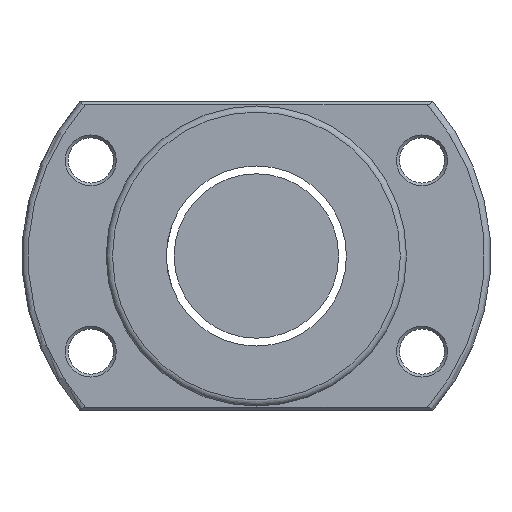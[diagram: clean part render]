
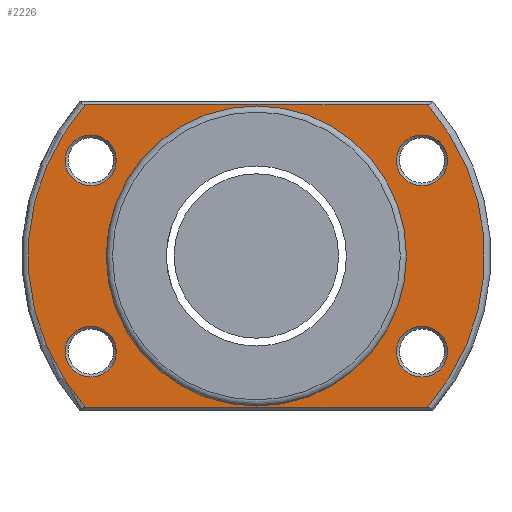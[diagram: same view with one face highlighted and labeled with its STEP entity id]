
A CAD part, left-side view. The second image highlights one B-rep face of the part: STEP entity #2226.
In plain terms, the highlighted planar face has unit normal (-1, 0, 0).
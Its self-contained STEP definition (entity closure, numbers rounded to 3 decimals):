
#28 = FACE_BOUND ( 'NONE', #143, .T. ) ;
#31 = DIRECTION ( 'NONE',  ( 0., 0., 1. ) ) ;
#74 = ORIENTED_EDGE ( 'NONE', *, *, #1837, .T. ) ;
#103 = VECTOR ( 'NONE', #199, 1000. ) ;
#116 = DIRECTION ( 'NONE',  ( 1., 0., 0. ) ) ;
#143 = EDGE_LOOP ( 'NONE', ( #2986 ) ) ;
#199 = DIRECTION ( 'NONE',  ( 0., 1., 0. ) ) ;
#351 = AXIS2_PLACEMENT_3D ( 'NONE', #560, #1461, #2437 ) ;
#463 = CARTESIAN_POINT ( 'NONE',  ( -79.5, 0., -36.5 ) ) ;
#492 = VECTOR ( 'NONE', #2944, 1000. ) ;
#502 = FACE_BOUND ( 'NONE', #1566, .T. ) ;
#512 = CIRCLE ( 'NONE', #1303, 55.5 ) ;
#525 = AXIS2_PLACEMENT_3D ( 'NONE', #1388, #2320, #2085 ) ;
#537 = CARTESIAN_POINT ( 'NONE',  ( -79.5, -40.27, -23.25 ) ) ;
#560 = CARTESIAN_POINT ( 'NONE',  ( -79.5, 40.27, 23.25 ) ) ;
#594 = CIRCLE ( 'NONE', #2159, 6.2 ) ;
#609 = ORIENTED_EDGE ( 'NONE', *, *, #841, .T. ) ;
#698 = VERTEX_POINT ( 'NONE', #1015 ) ;
#716 = DIRECTION ( 'NONE',  ( 1., 0., 0. ) ) ;
#735 = EDGE_CURVE ( 'NONE', #2325, #698, #512, .T. ) ;
#744 = FACE_OUTER_BOUND ( 'NONE', #1537, .T. ) ;
#777 = CARTESIAN_POINT ( 'NONE',  ( -79.5, 57., 0. ) ) ;
#779 = VERTEX_POINT ( 'NONE', #796 ) ;
#785 = DIRECTION ( 'NONE',  ( 1., 0., 0. ) ) ;
#796 = CARTESIAN_POINT ( 'NONE',  ( -79.5, -40.27, -17.05 ) ) ;
#833 = EDGE_LOOP ( 'NONE', ( #74 ) ) ;
#841 = EDGE_CURVE ( 'NONE', #2542, #2542, #2742, .T. ) ;
#934 = AXIS2_PLACEMENT_3D ( 'NONE', #777, #2339, #2612 ) ;
#981 = EDGE_CURVE ( 'NONE', #1451, #2325, #1379, .T. ) ;
#984 = CARTESIAN_POINT ( 'NONE',  ( -79.5, 0., 0. ) ) ;
#1015 = CARTESIAN_POINT ( 'NONE',  ( -79.5, 41.545, -36.8 ) ) ;
#1136 = EDGE_CURVE ( 'NONE', #2344, #2344, #1668, .T. ) ;
#1173 = VERTEX_POINT ( 'NONE', #3005 ) ;
#1184 = FACE_BOUND ( 'NONE', #2337, .T. ) ;
#1265 = CIRCLE ( 'NONE', #525, 55.5 ) ;
#1303 = AXIS2_PLACEMENT_3D ( 'NONE', #984, #1410, #1423 ) ;
#1305 = EDGE_CURVE ( 'NONE', #1173, #1173, #594, .T. ) ;
#1309 = VERTEX_POINT ( 'NONE', #2648 ) ;
#1372 = CARTESIAN_POINT ( 'NONE',  ( -79.5, 40.27, 29.45 ) ) ;
#1379 = LINE ( 'NONE', #2549, #103 ) ;
#1388 = CARTESIAN_POINT ( 'NONE',  ( -79.5, 0., 0. ) ) ;
#1393 = ORIENTED_EDGE ( 'NONE', *, *, #1305, .T. ) ;
#1410 = DIRECTION ( 'NONE',  ( -1., 0., 0. ) ) ;
#1423 = DIRECTION ( 'NONE',  ( 0., 0., 1. ) ) ;
#1451 = VERTEX_POINT ( 'NONE', #2603 ) ;
#1461 = DIRECTION ( 'NONE',  ( 1., 0., 0. ) ) ;
#1468 = PLANE ( 'NONE',  #934 ) ;
#1514 = EDGE_CURVE ( 'NONE', #1309, #1309, #2640, .T. ) ;
#1524 = AXIS2_PLACEMENT_3D ( 'NONE', #2388, #785, #2359 ) ;
#1537 = EDGE_LOOP ( 'NONE', ( #2380, #2680, #2510, #1973 ) ) ;
#1566 = EDGE_LOOP ( 'NONE', ( #609 ) ) ;
#1623 = AXIS2_PLACEMENT_3D ( 'NONE', #2135, #2355, #2632 ) ;
#1655 = FACE_BOUND ( 'NONE', #833, .T. ) ;
#1668 = CIRCLE ( 'NONE', #351, 6.2 ) ;
#1699 = EDGE_CURVE ( 'NONE', #698, #1834, #1992, .T. ) ;
#1789 = EDGE_LOOP ( 'NONE', ( #1393 ) ) ;
#1834 = VERTEX_POINT ( 'NONE', #2860 ) ;
#1837 = EDGE_CURVE ( 'NONE', #779, #779, #2589, .T. ) ;
#1973 = ORIENTED_EDGE ( 'NONE', *, *, #2435, .T. ) ;
#1992 = LINE ( 'NONE', #2718, #492 ) ;
#2085 = DIRECTION ( 'NONE',  ( 0., 0., 1. ) ) ;
#2135 = CARTESIAN_POINT ( 'NONE',  ( -79.5, 0., 0. ) ) ;
#2159 = AXIS2_PLACEMENT_3D ( 'NONE', #2185, #116, #2389 ) ;
#2185 = CARTESIAN_POINT ( 'NONE',  ( -79.5, 40.27, -23.25 ) ) ;
#2226 = ADVANCED_FACE ( 'NONE', ( #2840, #1655, #1184, #28, #502, #744 ), #1468, .T. ) ;
#2320 = DIRECTION ( 'NONE',  ( -1., 0., 0. ) ) ;
#2325 = VERTEX_POINT ( 'NONE', #2777 ) ;
#2337 = EDGE_LOOP ( 'NONE', ( #2593 ) ) ;
#2339 = DIRECTION ( 'NONE',  ( -1., 0., 0. ) ) ;
#2344 = VERTEX_POINT ( 'NONE', #1372 ) ;
#2355 = DIRECTION ( 'NONE',  ( 1., 0., 0. ) ) ;
#2359 = DIRECTION ( 'NONE',  ( 0., 0., 1. ) ) ;
#2380 = ORIENTED_EDGE ( 'NONE', *, *, #981, .T. ) ;
#2388 = CARTESIAN_POINT ( 'NONE',  ( -79.5, -40.27, 23.25 ) ) ;
#2389 = DIRECTION ( 'NONE',  ( 0., 0., 1. ) ) ;
#2435 = EDGE_CURVE ( 'NONE', #1834, #1451, #1265, .T. ) ;
#2437 = DIRECTION ( 'NONE',  ( 0., 0., 1. ) ) ;
#2510 = ORIENTED_EDGE ( 'NONE', *, *, #1699, .T. ) ;
#2542 = VERTEX_POINT ( 'NONE', #463 ) ;
#2549 = CARTESIAN_POINT ( 'NONE',  ( -79.5, 57., 36.8 ) ) ;
#2589 = CIRCLE ( 'NONE', #2884, 6.2 ) ;
#2593 = ORIENTED_EDGE ( 'NONE', *, *, #1514, .T. ) ;
#2603 = CARTESIAN_POINT ( 'NONE',  ( -79.5, -41.545, 36.8 ) ) ;
#2612 = DIRECTION ( 'NONE',  ( 0., 0., 1. ) ) ;
#2632 = DIRECTION ( 'NONE',  ( 0., 0., -1. ) ) ;
#2640 = CIRCLE ( 'NONE', #1524, 6.2 ) ;
#2648 = CARTESIAN_POINT ( 'NONE',  ( -79.5, -40.27, 29.45 ) ) ;
#2680 = ORIENTED_EDGE ( 'NONE', *, *, #735, .T. ) ;
#2718 = CARTESIAN_POINT ( 'NONE',  ( -79.5, 57., -36.8 ) ) ;
#2742 = CIRCLE ( 'NONE', #1623, 36.5 ) ;
#2777 = CARTESIAN_POINT ( 'NONE',  ( -79.5, 41.545, 36.8 ) ) ;
#2840 = FACE_BOUND ( 'NONE', #1789, .T. ) ;
#2860 = CARTESIAN_POINT ( 'NONE',  ( -79.5, -41.545, -36.8 ) ) ;
#2884 = AXIS2_PLACEMENT_3D ( 'NONE', #537, #716, #31 ) ;
#2944 = DIRECTION ( 'NONE',  ( 0., -1., 0. ) ) ;
#2986 = ORIENTED_EDGE ( 'NONE', *, *, #1136, .T. ) ;
#3005 = CARTESIAN_POINT ( 'NONE',  ( -79.5, 40.27, -17.05 ) ) ;
